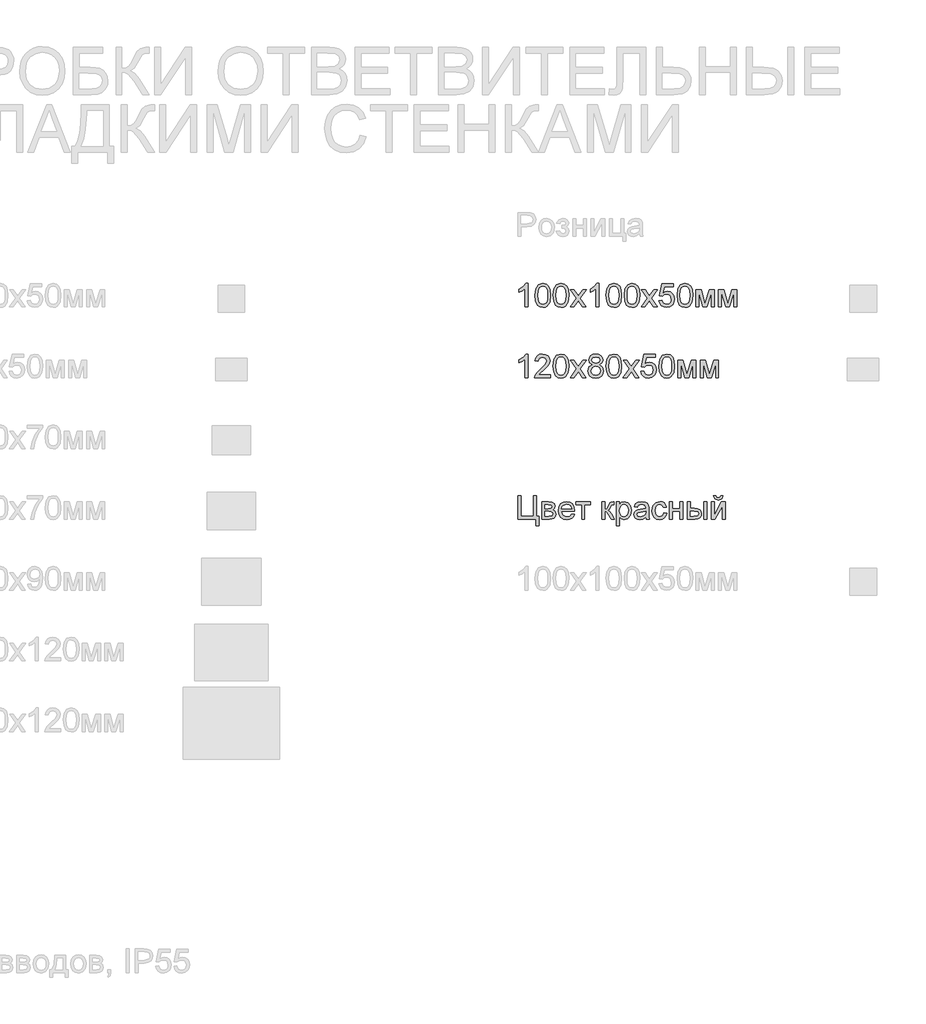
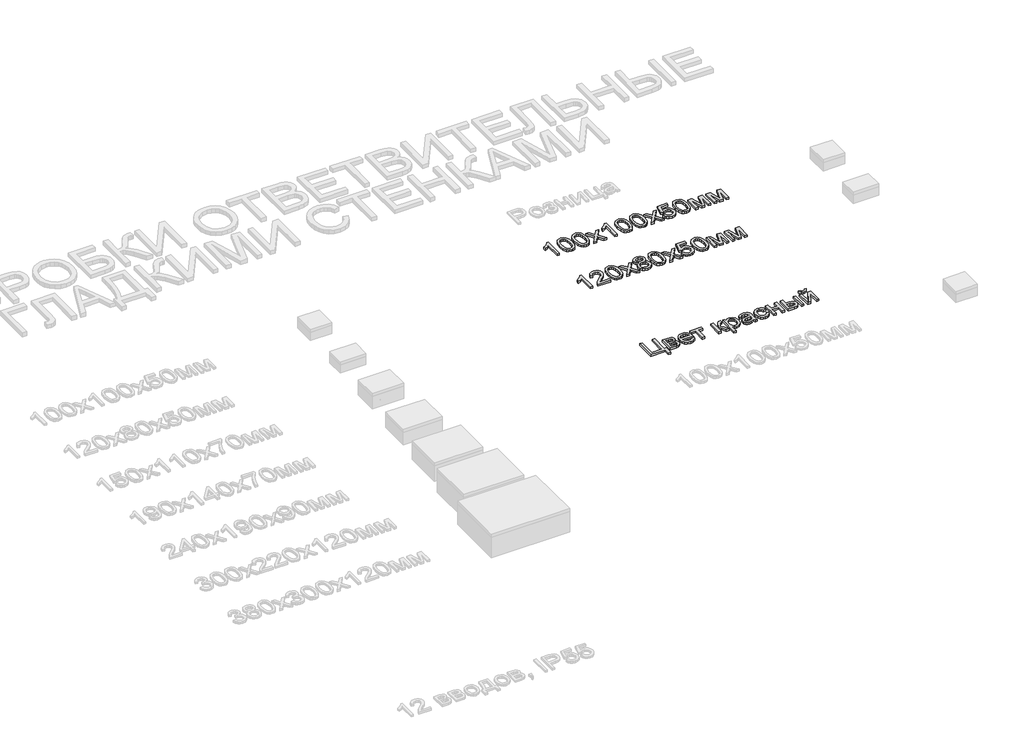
# One storey, part 31 of 98: 3 proxies.
"""IFC4 building model written with IfcOpenShell, lengths in millimetres."""

import ifcopenshell
import ifcopenshell.guid

model = None  # the IFC model being written
_history = None  # IfcOwnerHistory: only IFC2X3 demands one
_inside = {}  # id of a spatial element -> (the spatial element, [elements in it])
_under = {}  # id of a project, library or spatial element -> (it, [spatial elements below it])
_declared = {}  # id of a project -> (the project, [libraries it declares])
_typed = {}  # id of a type object -> (the type object, [elements of that type])
_made_of = {}  # id of a material, layer set ... -> (it, [elements and type objects made of it])


def new_model(schema):
    """Start an empty IFC model of exactly this schema.

    Asked for "IFC4X3", IfcOpenShell would pick the latest addendum, in which some entities
    have other attributes; the version numbers below select the first issue.
    IFC2X3 requires an IfcOwnerHistory on every rooted entity: one is made here for all.
    """
    global model, _history
    if schema == "IFC4X3":
        model = ifcopenshell.file(schema_version=(4, 3, 0, 0))
    else:
        model = ifcopenshell.file(schema=schema)
    _inside.clear()
    _under.clear()
    _declared.clear()
    _typed.clear()
    _made_of.clear()
    _history = None
    if model.schema == "IFC2X3":
        org = make("IfcOrganization", Name="unknown")
        user = make(
            "IfcPersonAndOrganization",
            ThePerson=make("IfcPerson", FamilyName="unknown"),
            TheOrganization=org,
        )
        app = make(
            "IfcApplication",
            ApplicationDeveloper=org,
            Version="unknown",
            ApplicationFullName="unknown",
            ApplicationIdentifier="unknown",
        )
        _history = make(
            "IfcOwnerHistory",
            OwningUser=user,
            OwningApplication=app,
            ChangeAction="ADDED",
            CreationDate=0,
        )
    return model


def make(cls, **values):
    """One entity of the class cls with the attributes given. An attribute that is None is left unset."""
    return model.create_entity(
        cls, **{name: value for name, value in values.items() if value is not None}
    )


def rooted(cls, **values):
    """An entity with a GlobalId (a new one), such as an element, a storey or a relation."""
    return make(cls, GlobalId=ifcopenshell.guid.new(), OwnerHistory=_history, **values)


def si_unit(unit_type, name, prefix=None):
    """IfcSIUnit, for example si_unit("LENGTHUNIT", "METRE", prefix="MILLI")."""
    return make("IfcSIUnit", UnitType=unit_type, Prefix=prefix, Name=name)


def assignment(units):
    """IfcUnitAssignment: the units of a project."""
    return None if units is None else make("IfcUnitAssignment", Units=units)


def point(xyz):
    """IfcCartesianPoint."""
    return None if xyz is None else make("IfcCartesianPoint", Coordinates=xyz)


def direction(xyz):
    """IfcDirection."""
    return None if xyz is None else make("IfcDirection", DirectionRatios=xyz)


def frame(location, z_axis=None, x_axis=None):
    """IfcAxis2Placement3D, a coordinate frame: its origin and axes. An axis left out is left unset."""
    return make(
        "IfcAxis2Placement3D",
        Location=point(location),
        Axis=direction(z_axis),
        RefDirection=direction(x_axis),
    )


def origin():
    """The frame at (0, 0, 0) with its axes left unset."""
    return frame((0.0, 0.0, 0.0))


def origin_with_axes():
    """The frame at (0, 0, 0) with the z axis (0, 0, 1) and the x axis (1, 0, 0) written out."""
    return frame((0.0, 0.0, 0.0), z_axis=(0.0, 0.0, 1.0), x_axis=(1.0, 0.0, 0.0))


def place(relative_to, where):
    """IfcLocalPlacement: puts the frame where relative to a parent placement (None: the world)."""
    return make(
        "IfcLocalPlacement", PlacementRelTo=relative_to, RelativePlacement=where
    )


def context(
    kind, dimensions, precision=None, world=None, true_north=None, identifier=None
):
    """IfcGeometricRepresentationContext, for example the 3D "Model" context."""
    return make(
        "IfcGeometricRepresentationContext",
        ContextIdentifier=identifier,
        ContextType=kind,
        CoordinateSpaceDimension=dimensions,
        Precision=precision,
        WorldCoordinateSystem=world,
        TrueNorth=true_north,
    )


def project(units=None, contexts=None):
    """IfcProject with its units and contexts."""
    return rooted(
        "IfcProject",
        Name="project",
        RepresentationContexts=contexts,
        UnitsInContext=assignment(units),
    )


def spatial(cls, under=None, at=None, **own):
    """A site, building, storey or space (cls), placed at a placement, below another one or the project."""
    s = rooted(cls, ObjectPlacement=at, **own)
    if under is not None:
        _under.setdefault(under.id(), (under, []))[1].append(s)
    return s


def polyline(points):
    """IfcPolyline through the points."""
    return make("IfcPolyline", Points=[point(p) for p in points])


def outline(outer, holes=None, kind="AREA"):
    """IfcArbitraryClosedProfileDef: a profile drawn as a closed curve; with holes, ...WithVoids."""
    if holes is None:
        return make("IfcArbitraryClosedProfileDef", ProfileType=kind, OuterCurve=outer)
    return make(
        "IfcArbitraryProfileDefWithVoids",
        ProfileType=kind,
        OuterCurve=outer,
        InnerCurves=holes,
    )


def extrude(swept, where, along, depth):
    """IfcExtrudedAreaSolid: the profile swept, set in the frame where, extruded along a direction by depth."""
    return make(
        "IfcExtrudedAreaSolid",
        SweptArea=swept,
        Position=where,
        ExtrudedDirection=direction(along),
        Depth=depth,
    )


def shape(context_of_items, identifier, shape_type, items):
    """IfcShapeRepresentation: the items that make up one representation, for example the "Body"."""
    return make(
        "IfcShapeRepresentation",
        ContextOfItems=context_of_items,
        RepresentationIdentifier=identifier,
        RepresentationType=shape_type,
        Items=items,
    )


def made_of(thing, what):
    """Note that an element or type object is made of a material, layer set ...; save() writes the relation."""
    if what is not None:
        _made_of.setdefault(what.id(), (what, []))[1].append(thing)
    return thing


def element(
    cls,
    number,
    at=None,
    inside=None,
    cuts=None,
    type_object=None,
    material=None,
    context=None,
    identifier="Body",
    shape_type=None,
    held_by="IfcProductDefinitionShape",
    body=None,
    shapes=None,
    **own,
):
    """One element of the class cls, such as IfcWall. Its Tag is "e" and its number.

    at: its placement. inside: the storey or other place that contains it. cuts: it is an
    opening in that element (IfcRelVoidsElement). A single representation is given by context,
    identifier, shape_type and body (its items); several are given by shapes. held_by: the class
    of the entity that holds the representations. save() writes the other relations.
    """
    e = rooted(cls, Tag="e%d" % number, ObjectPlacement=at, **own)
    if body is not None:
        shapes = [shape(context, identifier, shape_type, body)]
    if shapes is not None:
        e.Representation = make(held_by, Representations=shapes)
    if inside is not None:
        _inside.setdefault(inside.id(), (inside, []))[1].append(e)
    if cuts is not None:
        rooted(
            "IfcRelVoidsElement", RelatingBuildingElement=cuts, RelatedOpeningElement=e
        )
    if type_object is not None:
        _typed.setdefault(type_object.id(), (type_object, []))[1].append(e)
    return made_of(e, material)


def aggregate(whole, parts):
    """IfcRelAggregates: a whole, such as a stair, and the parts it consists of."""
    return rooted("IfcRelAggregates", RelatingObject=whole, RelatedObjects=parts)


def save(model, path):
    """Write the relations noted so far, then the file.

    IfcRelAggregates (storeys below a building ...), IfcRelContainedInSpatialStructure (elements
    in a storey), IfcRelDefinesByType, IfcRelAssociatesMaterial and IfcRelDeclares: one each for
    every whole, place, type object, material and project.
    """
    for whole, parts in _under.values():
        aggregate(whole, parts)
    for where, things in _inside.values():
        rooted(
            "IfcRelContainedInSpatialStructure",
            RelatedElements=things,
            RelatingStructure=where,
        )
    for kind, things in _typed.values():
        rooted("IfcRelDefinesByType", RelatedObjects=things, RelatingType=kind)
    for what, things in _made_of.values():
        rooted("IfcRelAssociatesMaterial", RelatedObjects=things, RelatingMaterial=what)
    for by, libraries in _declared.values():
        rooted("IfcRelDeclares", RelatingContext=by, RelatedDefinitions=libraries)
    model.write(path)


model = new_model("IFC4")

# Units and contexts
model_context = context("Model", 3, world=origin())
ifc_project = project(units=[si_unit("LENGTHUNIT", "METRE", prefix="MILLI")], contexts=[model_context])

# Site, building, storey
site = spatial("IfcSite", under=ifc_project)
building = spatial("IfcBuilding", under=site)
storey = spatial("IfcBuildingStorey", under=building, Name="Этаж 01", Elevation=0.0)

# Proxies
placement = place(None, origin())
element("IfcBuildingElementProxy", 1, Name="100", ObjectType="100", at=placement, inside=storey, context=model_context, shape_type="SweptSolid", body=[
    extrude(outline(polyline([(14689.4694239, -42337.5373486), (14676.9123851, -42337.5373486), (14676.9123851, -42259.25206), (14665.0175339, -42267.7256087), (14651.7983076, -42274.0654417), (14651.7983076, -42262.195116), (14670.2046701, -42250.4474176), (14681.37602, -42237.0810385), (14689.4694239, -42237.0810385), (14689.4694239, -42337.5373486)])), origin_with_axes(), (0.0, 0.0, 1.0), 10.0),
    extrude(outline(polyline([(14719.292391, -42288.1185339), (14722.9834736, -42259.2152718), (14733.9463571, -42242.5502175), (14752.2546177, -42237.0810385), (14766.9208466, -42240.3184), (14777.0498642, -42249.65034), (14782.9359761, -42264.5127726), (14785.2168445, -42288.1185339), (14781.56255, -42316.8991687), (14770.6364548, -42333.6010113), (14762.4050951, -42337.7304867), (14752.2546177, -42339.1069785), (14739.2070696, -42336.7157455), (14729.2987812, -42329.5420466), (14721.7939885, -42312.5520298), (14719.292391, -42288.1185339)]), holes=[polyline([(14731.8494297, -42288.0940085), (14733.3209577, -42307.8462059), (14737.7355417, -42319.2781389), (14744.3083666, -42324.7319895), (14752.2546177, -42326.5499397), (14760.2008688, -42324.7258581), (14766.7736938, -42319.2536135), (14771.1882778, -42307.8155491), (14772.6598057, -42288.0940085), (14771.2373287, -42268.7863351), (14766.9698975, -42257.2654973), (14760.4093353, -42251.5449322), (14752.1074649, -42249.6380772), (14744.247053, -42251.3180717), (14737.9317454, -42256.358055), (14733.3700086, -42268.5962627), (14731.8494297, -42288.0940085)])]), origin_with_axes(), (0.0, 0.0, 1.0), 10.0),
    extrude(outline(polyline([(14796.2042534, -42288.1185339), (14799.8953361, -42259.2152718), (14810.8582196, -42242.5502175), (14829.1664802, -42237.0810385), (14843.8327091, -42240.3184), (14853.9617267, -42249.65034), (14859.8478386, -42264.5127726), (14862.128707, -42288.1185339), (14858.4744125, -42316.8991687), (14847.5483172, -42333.6010113), (14839.3169576, -42337.7304867), (14829.1664802, -42339.1069785), (14816.1189321, -42336.7157455), (14806.2106437, -42329.5420466), (14798.705851, -42312.5520298), (14796.2042534, -42288.1185339)]), holes=[polyline([(14808.7612922, -42288.0940085), (14810.2328202, -42307.8462059), (14814.6474041, -42319.2781389), (14821.2202291, -42324.7319895), (14829.1664802, -42326.5499397), (14837.1127313, -42324.7258581), (14843.6855563, -42319.2536135), (14848.1001402, -42307.8155491), (14849.5716682, -42288.0940085), (14848.1491911, -42268.7863351), (14843.88176, -42257.2654973), (14837.3211978, -42251.5449322), (14829.0193274, -42249.6380772), (14821.1589154, -42251.3180717), (14814.8436078, -42256.358055), (14810.2818711, -42268.5962627), (14808.7612922, -42288.0940085)])]), origin_with_axes(), (0.0, 0.0, 1.0), 10.0),
    extrude(outline(polyline([(14868.4072263, -42337.5373486), (14895.2380865, -42300.4548435), (14869.9768562, -42263.7647458), (14885.0845435, -42263.7647458), (14897.2737002, -42281.4230816), (14902.9636084, -42289.7617402), (14907.8932272, -42282.9436605), (14921.7746411, -42263.7647458), (14936.8823284, -42263.7647458), (14910.3457738, -42300.4548435), (14935.9013097, -42337.5373486), (14920.7936225, -42337.5373486), (14905.4161551, -42315.2436997), (14902.5957264, -42311.1724723), (14883.5149136, -42337.5373486), (14868.4072263, -42337.5373486)])), origin_with_axes(), (0.0, 0.0, 1.0), 10.0),
    extrude(outline(polyline([(14990.8383543, -42337.5373486), (14978.2813156, -42337.5373486), (14978.2813156, -42259.25206), (14966.3864644, -42267.7256087), (14953.167238, -42274.0654417), (14953.167238, -42262.195116), (14971.5736005, -42250.4474176), (14982.7449504, -42237.0810385), (14990.8383543, -42237.0810385), (14990.8383543, -42337.5373486)])), origin_with_axes(), (0.0, 0.0, 1.0), 10.0),
    extrude(outline(polyline([(15020.6613214, -42288.1185339), (15024.3524041, -42259.2152718), (15035.3152876, -42242.5502175), (15053.6235482, -42237.0810385), (15068.2897771, -42240.3184), (15078.4187947, -42249.65034), (15084.3049066, -42264.5127726), (15086.5857749, -42288.1185339), (15082.9314805, -42316.8991687), (15072.0053852, -42333.6010113), (15063.7740256, -42337.7304867), (15053.6235482, -42339.1069785), (15040.5760001, -42336.7157455), (15030.6677117, -42329.5420466), (15023.162919, -42312.5520298), (15020.6613214, -42288.1185339)]), holes=[polyline([(15033.2183602, -42288.0940085), (15034.6898882, -42307.8462059), (15039.1044721, -42319.2781389), (15045.6772971, -42324.7319895), (15053.6235482, -42326.5499397), (15061.5697993, -42324.7258581), (15068.1426243, -42319.2536135), (15072.5572082, -42307.8155491), (15074.0287362, -42288.0940085), (15072.6062591, -42268.7863351), (15068.338828, -42257.2654973), (15061.7782657, -42251.5449322), (15053.4763954, -42249.6380772), (15045.6159834, -42251.3180717), (15039.3006758, -42256.358055), (15034.7389391, -42268.5962627), (15033.2183602, -42288.0940085)])]), origin_with_axes(), (0.0, 0.0, 1.0), 10.0),
    extrude(outline(polyline([(15097.5731839, -42288.1185339), (15101.2642666, -42259.2152718), (15112.22715, -42242.5502175), (15130.5354106, -42237.0810385), (15145.2016395, -42240.3184), (15155.3306571, -42249.65034), (15161.216769, -42264.5127726), (15163.4976374, -42288.1185339), (15159.8433429, -42316.8991687), (15148.9172477, -42333.6010113), (15140.685888, -42337.7304867), (15130.5354106, -42339.1069785), (15117.4878625, -42336.7157455), (15107.5795741, -42329.5420466), (15100.0747814, -42312.5520298), (15097.5731839, -42288.1185339)]), holes=[polyline([(15110.1302226, -42288.0940085), (15111.6017506, -42307.8462059), (15116.0163346, -42319.2781389), (15122.5891595, -42324.7319895), (15130.5354106, -42326.5499397), (15138.4816617, -42324.7258581), (15145.0544867, -42319.2536135), (15149.4690707, -42307.8155491), (15150.9405986, -42288.0940085), (15149.5181216, -42268.7863351), (15145.2506904, -42257.2654973), (15138.6901282, -42251.5449322), (15130.3882578, -42249.6380772), (15122.5278459, -42251.3180717), (15116.2125383, -42256.358055), (15111.6508016, -42268.5962627), (15110.1302226, -42288.0940085)])]), origin_with_axes(), (0.0, 0.0, 1.0), 10.0),
    extrude(outline(polyline([(15169.7761568, -42337.5373486), (15196.607017, -42300.4548435), (15171.3457866, -42263.7647458), (15186.4534739, -42263.7647458), (15198.6426307, -42281.4230816), (15204.3325389, -42289.7617402), (15209.2621576, -42282.9436605), (15223.1435716, -42263.7647458), (15238.2512588, -42263.7647458), (15211.7147042, -42300.4548435), (15237.2702402, -42337.5373486), (15222.1625529, -42337.5373486), (15206.7850855, -42315.2436997), (15203.9646569, -42311.1724723), (15184.8838441, -42337.5373486), (15169.7761568, -42337.5373486)])), origin_with_axes(), (0.0, 0.0, 1.0), 10.0),
    extrude(outline(polyline([(15245.1183894, -42310.8536412), (15257.6754282, -42309.2840114), (15264.0029985, -42322.2211949), (15277.124123, -42326.5499397), (15286.1249691, -42325.0446892), (15292.8694724, -42320.5289377), (15297.0817212, -42313.5238514), (15298.4858042, -42304.5505964), (15293.2250916, -42289.6391128), (15286.6185441, -42285.5372286), (15277.3203267, -42284.1699338), (15266.2961296, -42286.3527004), (15259.245058, -42292.0180831), (15246.6880192, -42290.4484532), (15257.6754282, -42238.6506683), (15306.3339534, -42238.6506683), (15306.3339534, -42251.2077071), (15267.8289712, -42251.2077071), (15262.4578941, -42278.8724331), (15271.4280834, -42273.4277796), (15280.8274684, -42271.6128951), (15292.5598384, -42273.8631066), (15302.2995142, -42280.6137412), (15308.8570108, -42290.9021744), (15311.0428429, -42303.7657815), (15309.0746743, -42316.3228202), (15303.1701682, -42327.0649745), (15291.8639283, -42336.0964775), (15277.0750721, -42339.1069785), (15264.7418282, -42337.1725323), (15254.9163132, -42331.3691938), (15248.181007, -42322.3714134), (15245.1183894, -42310.8536412)])), origin_with_axes(), (0.0, 0.0, 1.0), 10.0),
    extrude(outline(polyline([(15322.0302519, -42288.1185339), (15325.7213345, -42259.2152718), (15336.684218, -42242.5502175), (15354.9924786, -42237.0810385), (15369.6587075, -42240.3184), (15379.7877251, -42249.65034), (15385.673837, -42264.5127726), (15387.9547054, -42288.1185339), (15384.3004109, -42316.8991687), (15373.3743157, -42333.6010113), (15365.142956, -42337.7304867), (15354.9924786, -42339.1069785), (15341.9449305, -42336.7157455), (15332.0366421, -42329.5420466), (15324.5318494, -42312.5520298), (15322.0302519, -42288.1185339)]), holes=[polyline([(15334.5872906, -42288.0940085), (15336.0588186, -42307.8462059), (15340.4734026, -42319.2781389), (15347.0462275, -42324.7319895), (15354.9924786, -42326.5499397), (15362.9387297, -42324.7258581), (15369.5115547, -42319.2536135), (15373.9261386, -42307.8155491), (15375.3976666, -42288.0940085), (15373.9751896, -42268.7863351), (15369.7077584, -42257.2654973), (15363.1471962, -42251.5449322), (15354.8453258, -42249.6380772), (15346.9849139, -42251.3180717), (15340.6696063, -42256.358055), (15336.1078695, -42268.5962627), (15334.5872906, -42288.0940085)])]), origin_with_axes(), (0.0, 0.0, 1.0), 10.0),
    extrude(outline(polyline([(15402.081374, -42263.7647458), (15423.6883099, -42263.7647458), (15440.3411015, -42322.8220688), (15458.2937429, -42263.7647458), (15478.9932365, -42263.7647458), (15478.9932365, -42337.5373486), (15466.4361977, -42337.5373486), (15466.4361977, -42278.1366691), (15448.3854545, -42337.5373486), (15431.9043411, -42337.5373486), (15414.6384128, -42275.291715), (15414.6384128, -42337.5373486), (15402.081374, -42337.5373486), (15402.081374, -42263.7647458)])), origin_with_axes(), (0.0, 0.0, 1.0), 10.0),
    extrude(outline(polyline([(15497.8287946, -42263.7647458), (15519.4357305, -42263.7647458), (15536.0885221, -42322.8220688), (15554.0411635, -42263.7647458), (15574.7406571, -42263.7647458), (15574.7406571, -42337.5373486), (15562.1836183, -42337.5373486), (15562.1836183, -42278.1366691), (15544.1328751, -42337.5373486), (15527.6517617, -42337.5373486), (15510.3858334, -42275.291715), (15510.3858334, -42337.5373486), (15497.8287946, -42337.5373486), (15497.8287946, -42263.7647458)])), origin_with_axes(), (0.0, 0.0, 1.0), 10.0),
])
element("IfcBuildingElementProxy", 2, Name="100", ObjectType="100", at=placement, inside=storey, context=model_context, shape_type="SweptSolid", body=[
    extrude(outline(polyline([(14689.4694239, -42637.5373486), (14676.9123851, -42637.5373486), (14676.9123851, -42559.25206), (14665.0175339, -42567.7256087), (14651.7983076, -42574.0654417), (14651.7983076, -42562.195116), (14670.2046701, -42550.4474176), (14681.37602, -42537.0810385), (14689.4694239, -42537.0810385), (14689.4694239, -42637.5373486)])), origin_with_axes(), (0.0, 0.0, 1.0), 10.0),
    extrude(outline(polyline([(14783.6472147, -42624.9803098), (14783.6472147, -42637.5373486), (14717.7227611, -42637.5373486), (14719.0716618, -42628.879859), (14726.6990818, -42615.550268), (14742.4199057, -42600.9944038), (14764.100418, -42580.074181), (14769.520546, -42565.8494105), (14764.4069863, -42554.334704), (14751.0528699, -42549.6380772), (14737.1346677, -42554.2243394), (14731.8494297, -42566.9040055), (14719.292391, -42565.3343757), (14722.3366145, -42553.1881385), (14728.9186365, -42544.316051), (14738.6951005, -42538.8897916), (14751.32265, -42537.0810385), (14764.04217, -42539.0921267), (14773.8002399, -42545.1253914), (14780.0082486, -42554.1385003), (14782.0775848, -42565.089121), (14779.8457674, -42576.9962349), (14772.4268138, -42589.308019), (14754.4373842, -42606.5126337), (14739.9918846, -42618.5914259), (14734.3265018, -42624.9803098), (14783.6472147, -42624.9803098)])), origin_with_axes(), (0.0, 0.0, 1.0), 10.0),
    extrude(outline(polyline([(14796.2042534, -42588.1185339), (14799.8953361, -42559.2152718), (14810.8582196, -42542.5502175), (14829.1664802, -42537.0810385), (14843.8327091, -42540.3184), (14853.9617267, -42549.65034), (14859.8478386, -42564.5127726), (14862.128707, -42588.1185339), (14858.4744125, -42616.8991687), (14847.5483172, -42633.6010113), (14839.3169576, -42637.7304867), (14829.1664802, -42639.1069785), (14816.1189321, -42636.7157455), (14806.2106437, -42629.5420466), (14798.705851, -42612.5520298), (14796.2042534, -42588.1185339)]), holes=[polyline([(14808.7612922, -42588.0940085), (14810.2328202, -42607.8462059), (14814.6474041, -42619.2781389), (14821.2202291, -42624.7319895), (14829.1664802, -42626.5499397), (14837.1127313, -42624.7258581), (14843.6855563, -42619.2536135), (14848.1001402, -42607.8155491), (14849.5716682, -42588.0940085), (14848.1491911, -42568.7863351), (14843.88176, -42557.2654973), (14837.3211978, -42551.5449322), (14829.0193274, -42549.6380772), (14821.1589154, -42551.3180717), (14814.8436078, -42556.358055), (14810.2818711, -42568.5962627), (14808.7612922, -42588.0940085)])]), origin_with_axes(), (0.0, 0.0, 1.0), 10.0),
    extrude(outline(polyline([(14868.4072263, -42637.5373486), (14895.2380865, -42600.4548435), (14869.9768562, -42563.7647458), (14885.0845435, -42563.7647458), (14897.2737002, -42581.4230816), (14902.9636084, -42589.7617402), (14907.8932272, -42582.9436605), (14921.7746411, -42563.7647458), (14936.8823284, -42563.7647458), (14910.3457738, -42600.4548435), (14935.9013097, -42637.5373486), (14920.7936225, -42637.5373486), (14905.4161551, -42615.2436997), (14902.5957264, -42611.1724723), (14883.5149136, -42637.5373486), (14868.4072263, -42637.5373486)])), origin_with_axes(), (0.0, 0.0, 1.0), 10.0),
    extrude(outline(polyline([(14962.0454568, -42582.2078965), (14950.6043268, -42574.4087982), (14946.8887186, -42562.2686924), (14948.9120696, -42552.4523745), (14954.9821225, -42544.3405765), (14964.4182957, -42538.895923), (14976.5400075, -42537.0810385), (14988.7352956, -42538.9388425), (14998.2940961, -42544.5122548), (15004.4745136, -42552.7528115), (15006.5346528, -42562.6120489), (15002.8680956, -42574.4455864), (14991.7457966, -42582.2078965), (15005.099913, -42592.0548713), (15009.6739125, -42608.3029927), (15007.4053069, -42620.3082085), (15000.5994899, -42630.2287596), (14990.0903276, -42636.8874238), (14976.7116857, -42639.1069785), (14963.3330438, -42636.8782267), (14952.8238815, -42630.1919714), (14946.0180646, -42620.1763841), (14943.749459, -42607.9596362), (14948.5073994, -42591.33137), (14962.0454568, -42582.2078965)]), holes=[polyline([(14956.3064977, -42607.5181778), (14958.4034251, -42616.9727451), (14965.8223787, -42624.0483421), (14976.8097876, -42626.5499397), (14985.3569126, -42625.2347616), (14991.7703221, -42621.2892272), (14997.1168737, -42607.9105853), (14991.5986438, -42594.274426), (14985.0380815, -42590.227724), (14976.3928547, -42588.8788234), (14967.9652913, -42590.2093299), (14961.6162612, -42594.2008496), (14956.3064977, -42607.5181778)]), polyline([(14959.4457574, -42562.6365744), (14963.8971296, -42572.4958119), (14976.8588385, -42576.3217846), (14989.5630301, -42572.5203373), (14993.977614, -42563.2006601), (14989.4158773, -42553.5498891), (14976.7116857, -42549.6380772), (14963.970706, -42553.46405), (14959.4457574, -42562.6365744)])]), origin_with_axes(), (0.0, 0.0, 1.0), 10.0),
    extrude(outline(polyline([(15020.6613214, -42588.1185339), (15024.3524041, -42559.2152718), (15035.3152876, -42542.5502175), (15053.6235482, -42537.0810385), (15068.2897771, -42540.3184), (15078.4187947, -42549.65034), (15084.3049066, -42564.5127726), (15086.5857749, -42588.1185339), (15082.9314805, -42616.8991687), (15072.0053852, -42633.6010113), (15063.7740256, -42637.7304867), (15053.6235482, -42639.1069785), (15040.5760001, -42636.7157455), (15030.6677117, -42629.5420466), (15023.162919, -42612.5520298), (15020.6613214, -42588.1185339)]), holes=[polyline([(15033.2183602, -42588.0940085), (15034.6898882, -42607.8462059), (15039.1044721, -42619.2781389), (15045.6772971, -42624.7319895), (15053.6235482, -42626.5499397), (15061.5697993, -42624.7258581), (15068.1426243, -42619.2536135), (15072.5572082, -42607.8155491), (15074.0287362, -42588.0940085), (15072.6062591, -42568.7863351), (15068.338828, -42557.2654973), (15061.7782657, -42551.5449322), (15053.4763954, -42549.6380772), (15045.6159834, -42551.3180717), (15039.3006758, -42556.358055), (15034.7389391, -42568.5962627), (15033.2183602, -42588.0940085)])]), origin_with_axes(), (0.0, 0.0, 1.0), 10.0),
    extrude(outline(polyline([(15092.8642943, -42637.5373486), (15119.6951545, -42600.4548435), (15094.4339242, -42563.7647458), (15109.5416114, -42563.7647458), (15121.7307682, -42581.4230816), (15127.4206764, -42589.7617402), (15132.3502951, -42582.9436605), (15146.2317091, -42563.7647458), (15161.3393964, -42563.7647458), (15134.8028418, -42600.4548435), (15160.3583777, -42637.5373486), (15145.2506904, -42637.5373486), (15129.873223, -42615.2436997), (15127.0527944, -42611.1724723), (15107.9719816, -42637.5373486), (15092.8642943, -42637.5373486)])), origin_with_axes(), (0.0, 0.0, 1.0), 10.0),
    extrude(outline(polyline([(15168.2065269, -42610.8536412), (15180.7635657, -42609.2840114), (15187.091136, -42622.2211949), (15200.2122605, -42626.5499397), (15209.2131067, -42625.0446892), (15215.9576099, -42620.5289377), (15220.1698588, -42613.5238514), (15221.5739417, -42604.5505964), (15216.3132292, -42589.6391128), (15209.7066817, -42585.5372286), (15200.4084643, -42584.1699338), (15189.3842671, -42586.3527004), (15182.3331956, -42592.0180831), (15169.7761568, -42590.4484532), (15180.7635657, -42538.6506683), (15229.4220909, -42538.6506683), (15229.4220909, -42551.2077071), (15190.9171088, -42551.2077071), (15185.5460317, -42578.8724331), (15194.516221, -42573.4277796), (15203.9156059, -42571.6128951), (15215.6479759, -42573.8631066), (15225.3876517, -42580.6137412), (15231.9451483, -42590.9021744), (15234.1309805, -42603.7657815), (15232.1628118, -42616.3228202), (15226.2583058, -42627.0649745), (15214.9520658, -42636.0964775), (15200.1632096, -42639.1069785), (15187.8299657, -42637.1725323), (15178.0044508, -42631.3691938), (15171.2691446, -42622.3714134), (15168.2065269, -42610.8536412)])), origin_with_axes(), (0.0, 0.0, 1.0), 10.0),
    extrude(outline(polyline([(15245.1183894, -42588.1185339), (15248.8094721, -42559.2152718), (15259.7723555, -42542.5502175), (15278.0806162, -42537.0810385), (15292.746845, -42540.3184), (15302.8758626, -42549.65034), (15308.7619746, -42564.5127726), (15311.0428429, -42588.1185339), (15307.3885485, -42616.8991687), (15296.4624532, -42633.6010113), (15288.2310936, -42637.7304867), (15278.0806162, -42639.1069785), (15265.0330681, -42636.7157455), (15255.1247797, -42629.5420466), (15247.619987, -42612.5520298), (15245.1183894, -42588.1185339)]), holes=[polyline([(15257.6754282, -42588.0940085), (15259.1469562, -42607.8462059), (15263.5615401, -42619.2781389), (15270.1343651, -42624.7319895), (15278.0806162, -42626.5499397), (15286.0268673, -42624.7258581), (15292.5996922, -42619.2536135), (15297.0142762, -42607.8155491), (15298.4858042, -42588.0940085), (15297.0633271, -42568.7863351), (15292.795896, -42557.2654973), (15286.2353337, -42551.5449322), (15277.9334634, -42549.6380772), (15270.0730514, -42551.3180717), (15263.7577438, -42556.358055), (15259.1960071, -42568.5962627), (15257.6754282, -42588.0940085)])]), origin_with_axes(), (0.0, 0.0, 1.0), 10.0),
    extrude(outline(polyline([(15325.1695116, -42563.7647458), (15346.7764474, -42563.7647458), (15363.4292391, -42622.8220688), (15381.3818804, -42563.7647458), (15402.081374, -42563.7647458), (15402.081374, -42637.5373486), (15389.5243352, -42637.5373486), (15389.5243352, -42578.1366691), (15371.473592, -42637.5373486), (15354.9924786, -42637.5373486), (15337.7265503, -42575.291715), (15337.7265503, -42637.5373486), (15325.1695116, -42637.5373486), (15325.1695116, -42563.7647458)])), origin_with_axes(), (0.0, 0.0, 1.0), 10.0),
    extrude(outline(polyline([(15420.9169322, -42563.7647458), (15442.523868, -42563.7647458), (15459.1766597, -42622.8220688), (15477.129301, -42563.7647458), (15497.8287946, -42563.7647458), (15497.8287946, -42637.5373486), (15485.2717559, -42637.5373486), (15485.2717559, -42578.1366691), (15467.2210126, -42637.5373486), (15450.7398992, -42637.5373486), (15433.4739709, -42575.291715), (15433.4739709, -42637.5373486), (15420.9169322, -42637.5373486), (15420.9169322, -42563.7647458)])), origin_with_axes(), (0.0, 0.0, 1.0), 10.0),
])
element("IfcBuildingElementProxy", 3, Name="100", ObjectType="100", at=placement, inside=storey, context=model_context, shape_type="SweptSolid", body=[
    extrude(outline(polyline([(14647.089418, -43137.0810385), (14659.6464568, -43137.0810385), (14659.6464568, -43224.9803098), (14713.0138716, -43224.9803098), (14713.0138716, -43137.0810385), (14725.5709103, -43137.0810385), (14725.5709103, -43224.9803098), (14734.9886894, -43224.9803098), (14734.9886894, -43265.7906858), (14722.4316507, -43265.7906858), (14722.4316507, -43237.5373486), (14647.089418, -43237.5373486), (14647.089418, -43137.0810385)])), origin_with_axes(), (0.0, 0.0, 1.0), 10.0),
    extrude(outline(polyline([(14749.115358, -43163.7647458), (14776.7800841, -43163.7647458), (14791.949085, -43165.4447403), (14800.4839473, -43171.6006323), (14804.0524027, -43182.3305239), (14801.8941616, -43191.0493272), (14795.394913, -43197.2665329), (14803.8316735, -43204.0723498), (14807.1916623, -43215.9058873), (14805.0640781, -43225.4769505), (14800.0057007, -43232.2153224), (14791.9981359, -43236.2068421), (14781.0229898, -43237.5373486), (14749.115358, -43237.5373486), (14749.115358, -43163.7647458)]), holes=[polyline([(14761.6723968, -43192.0180831), (14774.0822828, -43192.0180831), (14784.321665, -43191.380421), (14789.3003346, -43188.8297725), (14791.4953639, -43184.2189848), (14787.6448657, -43178.0630927), (14774.4746902, -43176.3217846), (14761.6723968, -43176.3217846), (14761.6723968, -43192.0180831)]), polyline([(14761.6723968, -43224.9803098), (14777.0743897, -43224.9803098), (14790.7350744, -43222.7117042), (14794.6346236, -43214.8758177), (14792.4886453, -43208.8302903), (14786.8968389, -43205.3108858), (14775.8481164, -43204.5751218), (14761.6723968, -43204.5751218), (14761.6723968, -43224.9803098)])]), origin_with_axes(), (0.0, 0.0, 1.0), 10.0),
    extrude(outline(polyline([(14874.5385929, -43215.5625308), (14886.850377, -43217.1321606), (14882.4143333, -43226.4089183), (14875.3356706, -43233.3434939), (14865.7738044, -43237.6661073), (14853.8881503, -43239.1069785), (14839.1544764, -43236.6207093), (14827.8175795, -43229.1619019), (14820.5886983, -43217.2149341), (14818.1790713, -43201.2641839), (14820.6132238, -43184.7769391), (14827.9156814, -43172.4467609), (14839.0992941, -43164.7580272), (14853.1769117, -43162.195116), (14866.8161367, -43164.7518959), (14877.7146408, -43172.4222355), (14884.8607486, -43184.7278882), (14887.2427845, -43201.1906075), (14887.1692081, -43204.5751218), (14830.73611, -43204.5751218), (14832.9096795, -43213.9745068), (14837.9588599, -43220.884557), (14845.2459891, -43225.133594), (14854.1334049, -43226.5499397), (14866.445189, -43223.9257148), (14874.5385929, -43215.5625308)]), holes=[polyline([(14830.73611, -43192.0180831), (14874.6857457, -43192.0180831), (14869.6580251, -43180.6382667), (14862.3371734, -43176.2236828), (14853.1278608, -43174.7521548), (14837.6645543, -43179.4487816), (14832.7993149, -43184.9394204), (14830.73611, -43192.0180831)])]), origin_with_axes(), (0.0, 0.0, 1.0), 10.0),
    extrude(outline(polyline([(14893.5213039, -43163.7647458), (14953.167238, -43163.7647458), (14953.167238, -43176.3217846), (14929.6227903, -43176.3217846), (14929.6227903, -43237.5373486), (14917.0657516, -43237.5373486), (14917.0657516, -43176.3217846), (14893.5213039, -43176.3217846), (14893.5213039, -43163.7647458)])), origin_with_axes(), (0.0, 0.0, 1.0), 10.0),
    extrude(outline(polyline([(15003.3953931, -43163.7647458), (15015.9524319, -43163.7647458), (15015.9524319, -43195.1573428), (15024.3646668, -43192.9009999), (15031.2563229, -43179.7553499), (15036.9830193, -43168.4123217), (15042.0352653, -43164.721239), (15051.2200525, -43163.7647458), (15053.6235482, -43163.7647458), (15053.6235482, -43176.395361), (15050.2390338, -43176.3217846), (15044.1076672, -43177.6461598), (15039.7911852, -43185.911242), (15034.7266764, -43194.8507744), (15027.6265539, -43199.2285702), (15035.5482795, -43204.1152694), (15043.3228523, -43214.4098338), (15056.7628079, -43237.5373486), (15042.4889865, -43237.5373486), (15029.318811, -43214.9003432), (15022.6969351, -43205.3231486), (15015.9524319, -43203.005492), (15015.9524319, -43237.5373486), (15003.3953931, -43237.5373486), (15003.3953931, -43163.7647458)])), origin_with_axes(), (0.0, 0.0, 1.0), 10.0),
    extrude(outline(polyline([(15064.6109571, -43265.7906858), (15064.6109571, -43163.7647458), (15077.1679959, -43163.7647458), (15077.1679959, -43176.07653), (15085.850011, -43165.6654695), (15097.5731839, -43162.195116), (15113.4902115, -43167.0511583), (15123.8890093, -43180.7363686), (15127.3961509, -43200.0869615), (15123.4352881, -43220.4308358), (15111.9328444, -43234.2877243), (15096.052605, -43239.1069785), (15085.1265097, -43235.8818796), (15077.1679959, -43227.7271621), (15077.1679959, -43265.7906858), (15064.6109571, -43265.7906858)]), holes=[polyline([(15077.1679959, -43201.2396584), (15078.5260936, -43212.4968475), (15082.6003867, -43220.3695222), (15088.6121916, -43225.0048353), (15095.7828248, -43226.5499397), (15103.069954, -43224.949653), (15109.2350431, -43220.148793), (15113.4380949, -43211.987944), (15114.8391122, -43200.3076907), (15113.4718174, -43189.1118153), (15109.3699332, -43181.128776), (15103.3673253, -43176.3463101), (15096.2978596, -43174.7521548), (15089.2008028, -43176.4474776), (15082.9682687, -43181.5334462), (15078.6180641, -43189.850645), (15077.1679959, -43201.2396584)])]), origin_with_axes(), (0.0, 0.0, 1.0), 10.0),
    extrude(outline(polyline([(15188.6117149, -43228.1195695), (15176.4348209, -43236.6299064), (15162.9826026, -43239.1069785), (15152.4887687, -43237.6170564), (15144.7479184, -43233.1472901), (15139.9746495, -43226.3598673), (15138.3835599, -43217.9169755), (15140.7870556, -43207.9841617), (15147.1023632, -43200.7736746), (15155.8947428, -43196.6533962), (15166.7595244, -43194.7649353), (15188.5381385, -43190.4484532), (15188.6117149, -43187.6525501), (15185.1536242, -43178.3819238), (15171.2722102, -43174.7521548), (15158.5680187, -43177.1679132), (15152.5102285, -43185.7395637), (15139.9531897, -43184.1699338), (15145.3855805, -43171.9072007), (15156.3239385, -43164.721239), (15172.890891, -43162.195116), (15188.1089429, -43164.4269334), (15196.7051188, -43170.0310025), (15200.5556171, -43178.5536021), (15201.1687537, -43189.541011), (15201.1687537, -43205.163733), (15201.8064158, -43226.9791354), (15204.3080134, -43237.5373486), (15191.7509746, -43237.5373486), (15188.6117149, -43228.1195695)]), holes=[polyline([(15188.6117149, -43203.005492), (15168.3536797, -43206.8559902), (15157.5502118, -43208.8916039), (15152.6573813, -43212.2025419), (15150.9405986, -43217.0340587), (15154.6807323, -43223.8276129), (15165.6558784, -43226.5499397), (15178.36007, -43223.5455701), (15186.5515758, -43216.2737693), (15188.5381385, -43206.5616846), (15188.6117149, -43203.005492)])]), origin_with_axes(), (0.0, 0.0, 1.0), 10.0),
    extrude(outline(polyline([(15265.5235774, -43210.8536412), (15278.0806162, -43212.4232711), (15274.5796059, -43223.5915553), (15268.0006495, -43232.0313814), (15258.9630152, -43237.3380792), (15248.0859708, -43239.1069785), (15234.7287887, -43236.6391034), (15224.2840057, -43229.2354783), (15217.5425682, -43217.2210654), (15215.2954223, -43200.9208274), (15219.1336578, -43180.0619182), (15230.8323053, -43166.6587509), (15247.9142926, -43162.195116), (15258.5246224, -43163.7279576), (15267.0073681, -43168.3264826), (15273.0927495, -43175.7454362), (15276.5109863, -43185.7395637), (15263.9539476, -43187.3091935), (15258.1291493, -43177.9036772), (15248.0123944, -43174.7521548), (15239.8975308, -43176.3033905), (15233.4565302, -43180.9570978), (15229.2534784, -43188.9646625), (15227.8524611, -43200.5774708), (15229.2228215, -43212.346629), (15233.3339028, -43220.3817849), (15239.6584075, -43225.007901), (15247.6690379, -43226.5499397), (15259.5025754, -43222.6994415), (15265.5235774, -43210.8536412)])), origin_with_axes(), (0.0, 0.0, 1.0), 10.0),
    extrude(outline(polyline([(15289.0680251, -43163.7647458), (15301.6250639, -43163.7647458), (15301.6250639, -43192.0180831), (15334.5872906, -43192.0180831), (15334.5872906, -43163.7647458), (15347.1443294, -43163.7647458), (15347.1443294, -43237.5373486), (15334.5872906, -43237.5373486), (15334.5872906, -43204.5751218), (15301.6250639, -43204.5751218), (15301.6250639, -43237.5373486), (15289.0680251, -43237.5373486), (15289.0680251, -43163.7647458)])), origin_with_axes(), (0.0, 0.0, 1.0), 10.0),
    extrude(outline(polyline([(15365.9798876, -43163.7647458), (15378.5369263, -43163.7647458), (15378.5369263, -43190.4484532), (15394.0615465, -43190.4484532), (15407.4800423, -43192.0211488), (15417.4220532, -43196.7392353), (15423.5748796, -43204.2225683), (15425.6258217, -43214.0910028), (15423.9059734, -43223.0765205), (15418.7464284, -43230.6579553), (15409.8099616, -43235.8175003), (15396.7593478, -43237.5373486), (15365.9798876, -43237.5373486), (15365.9798876, -43163.7647458)]), holes=[polyline([(15378.5369263, -43224.9803098), (15391.4373216, -43224.9803098), (15408.0901133, -43222.3438222), (15413.0687829, -43214.1155283), (15409.3777003, -43206.3900064), (15393.0805279, -43203.005492), (15378.5369263, -43203.005492), (15378.5369263, -43224.9803098)])]), origin_with_axes(), (0.0, 0.0, 1.0), 10.0),
    extrude(outline(polyline([(15435.0436008, -43163.7647458), (15447.6006395, -43163.7647458), (15447.6006395, -43237.5373486), (15435.0436008, -43237.5373486), (15435.0436008, -43163.7647458)])), origin_with_axes(), (0.0, 0.0, 1.0), 10.0),
    extrude(outline(polyline([(15507.2465737, -43137.0810385), (15516.6643528, -43137.0810385), (15510.5697744, -43151.0482915), (15497.0439797, -43155.9165966), (15482.4022763, -43151.0850797), (15475.8539768, -43137.0810385), (15485.2717559, -43137.0810385), (15488.803423, -43144.1566355), (15495.9158082, -43146.4988175), (15503.7149065, -43144.2302119), (15507.2465737, -43137.0810385)])), origin_with_axes(), (0.0, 0.0, 1.0), 10.0),
    extrude(outline(polyline([(15466.4361977, -43163.7647458), (15478.9932365, -43163.7647458), (15478.9932365, -43220.0261656), (15509.8462731, -43163.7647458), (15526.0821319, -43163.7647458), (15526.0821319, -43237.5373486), (15513.5250931, -43237.5373486), (15513.5250931, -43181.6192853), (15482.8682602, -43237.5373486), (15466.4361977, -43237.5373486), (15466.4361977, -43163.7647458)])), origin_with_axes(), (0.0, 0.0, 1.0), 10.0),
])

save(model, "model.ifc")
